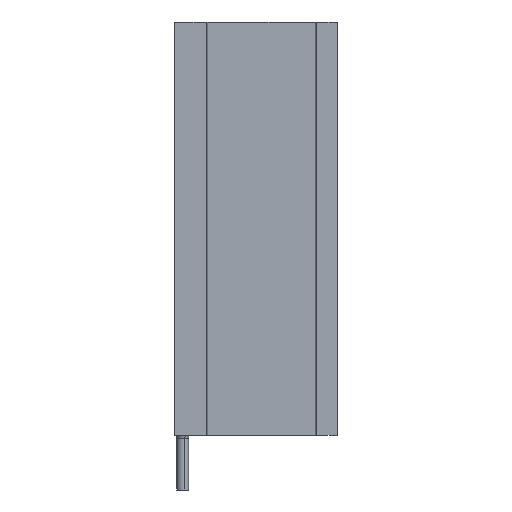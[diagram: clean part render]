
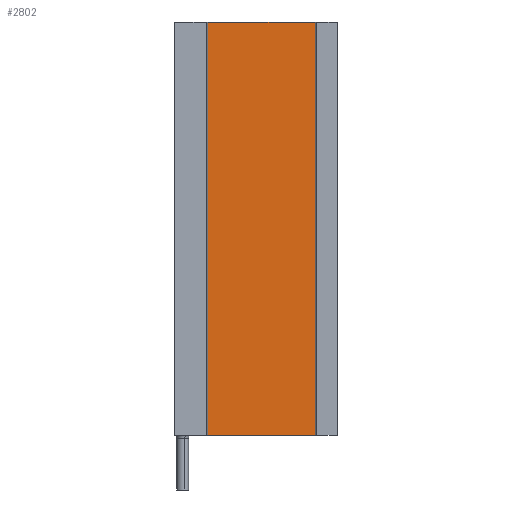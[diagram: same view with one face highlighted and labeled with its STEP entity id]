
A CAD part, left-side view. The second image highlights one B-rep face of the part: STEP entity #2802.
In plain terms, the highlighted planar face has unit normal (-1, 0, 0).
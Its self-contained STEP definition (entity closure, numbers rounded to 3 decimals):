
#23 = ORIENTED_EDGE ( 'NONE', *, *, #2490, .T. ) ;
#49 = VECTOR ( 'NONE', #2355, 1000. ) ;
#261 = CARTESIAN_POINT ( 'NONE',  ( 66.6, 298.704, 280.517 ) ) ;
#491 = AXIS2_PLACEMENT_3D ( 'NONE', #1282, #805, #1565 ) ;
#523 = EDGE_CURVE ( 'NONE', #3365, #565, #716, .T. ) ;
#565 = VERTEX_POINT ( 'NONE', #2956 ) ;
#716 = LINE ( 'NONE', #2420, #1925 ) ;
#805 = DIRECTION ( 'NONE',  ( 1., 0., 0. ) ) ;
#863 = ORIENTED_EDGE ( 'NONE', *, *, #3061, .F. ) ;
#907 = EDGE_CURVE ( 'NONE', #565, #1118, #1492, .T. ) ;
#931 = CARTESIAN_POINT ( 'NONE',  ( 66.6, 231.204, 545.517 ) ) ;
#1039 = VECTOR ( 'NONE', #1305, 1000. ) ;
#1118 = VERTEX_POINT ( 'NONE', #2451 ) ;
#1214 = DIRECTION ( 'NONE',  ( 0., -1., 0. ) ) ;
#1220 = CARTESIAN_POINT ( 'NONE',  ( 66.6, 300.204, 280.517 ) ) ;
#1282 = CARTESIAN_POINT ( 'NONE',  ( 66.6, 298.704, 545.517 ) ) ;
#1302 = FACE_OUTER_BOUND ( 'NONE', #2528, .T. ) ;
#1305 = DIRECTION ( 'NONE',  ( 0., -1., 0. ) ) ;
#1492 = LINE ( 'NONE', #931, #49 ) ;
#1565 = DIRECTION ( 'NONE',  ( 0., 0., -1. ) ) ;
#1638 = CARTESIAN_POINT ( 'NONE',  ( 66.6, 300.204, 280.517 ) ) ;
#1653 = CARTESIAN_POINT ( 'NONE',  ( 66.6, 300.204, 545.517 ) ) ;
#1719 = LINE ( 'NONE', #1220, #3608 ) ;
#1727 = ORIENTED_EDGE ( 'NONE', *, *, #907, .F. ) ;
#1756 = ORIENTED_EDGE ( 'NONE', *, *, #523, .F. ) ;
#1779 = VERTEX_POINT ( 'NONE', #1638 ) ;
#1925 = VECTOR ( 'NONE', #1214, 1000. ) ;
#2355 = DIRECTION ( 'NONE',  ( 0., 0., -1. ) ) ;
#2420 = CARTESIAN_POINT ( 'NONE',  ( 66.6, 298.704, 545.517 ) ) ;
#2451 = CARTESIAN_POINT ( 'NONE',  ( 66.6, 231.204, 280.517 ) ) ;
#2490 = EDGE_CURVE ( 'NONE', #1779, #1118, #2494, .T. ) ;
#2494 = LINE ( 'NONE', #261, #1039 ) ;
#2528 = EDGE_LOOP ( 'NONE', ( #23, #1727, #1756, #863 ) ) ;
#2551 = DIRECTION ( 'NONE',  ( 0., 0., 1. ) ) ;
#2802 = ADVANCED_FACE ( 'NONE', ( #1302 ), #3590, .F. ) ;
#2956 = CARTESIAN_POINT ( 'NONE',  ( 66.6, 231.204, 545.517 ) ) ;
#3061 = EDGE_CURVE ( 'NONE', #1779, #3365, #1719, .T. ) ;
#3365 = VERTEX_POINT ( 'NONE', #1653 ) ;
#3590 = PLANE ( 'NONE',  #491 ) ;
#3608 = VECTOR ( 'NONE', #2551, 1000. ) ;
